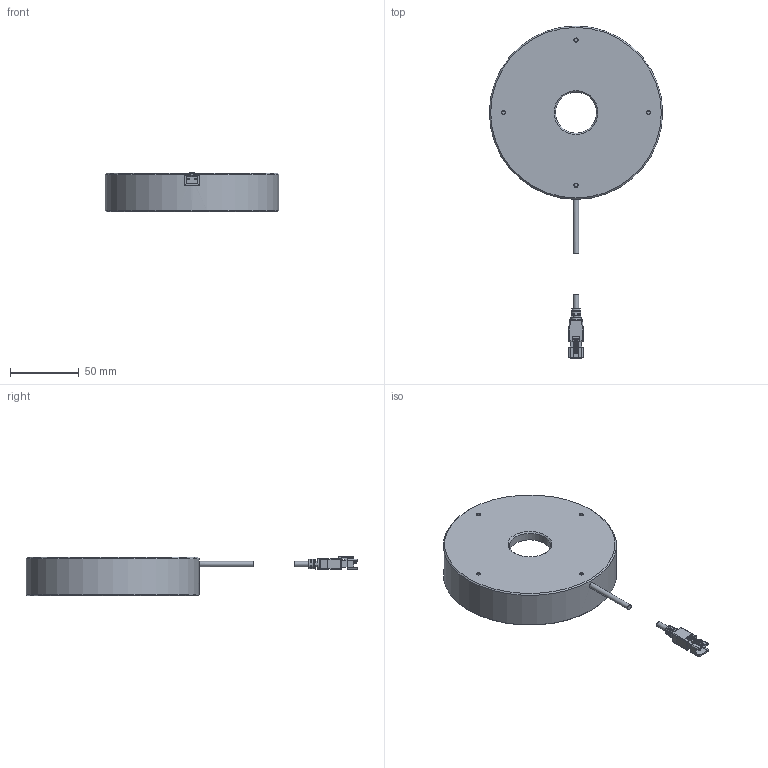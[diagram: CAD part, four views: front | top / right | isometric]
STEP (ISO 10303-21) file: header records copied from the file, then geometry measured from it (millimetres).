
FILE_DESCRIPTION(('STEP AP214'),'1');
FILE_NAME('DC-30D-127W.stp','2026-04-10T01:50:04',(' '),(' '),'Spatial InterOp 3D',' ',' ');
FILE_SCHEMA(('AUTOMOTIVE_DESIGN { 1 0 10303 214 1 1 1 1 }'));
Length unit declared in the file: metre
Products named in the file (3): DC-30D-127W; Component1; Component2
Assembly tree (2 placements, depth 2):
  DC-30D-127W
    Component1
    Component2
Bounding box: 126.5 x 242.33 x 28.5 mm (x, y, z)
Volume: 261696.3 mm3; surface area: 46187 mm2
Topology: 2 solids, 3 shells, 184 faces, 475 edges, 305 vertices
Faces by surface type: plane 119, cylinder 44, cone 9, bspline 4, torus 4, sphere 4
Full cylindrical faces by diameter (mm): 2.5 x4, 3.9 x2, 30 x1, 99 x1, 118.5 x1, 123.5 x1, 126.5 x1
Entity records: 9242 total; most frequent: CARTESIAN_POINT 1486, DIRECTION 866, ORIENTED_EDGE 850, STYLED_ITEM 578, PRESENTATION_STYLE_ASSIGNMENT 578, COLOUR_RGB 578, EDGE_CURVE 425, CURVE_STYLE 392
